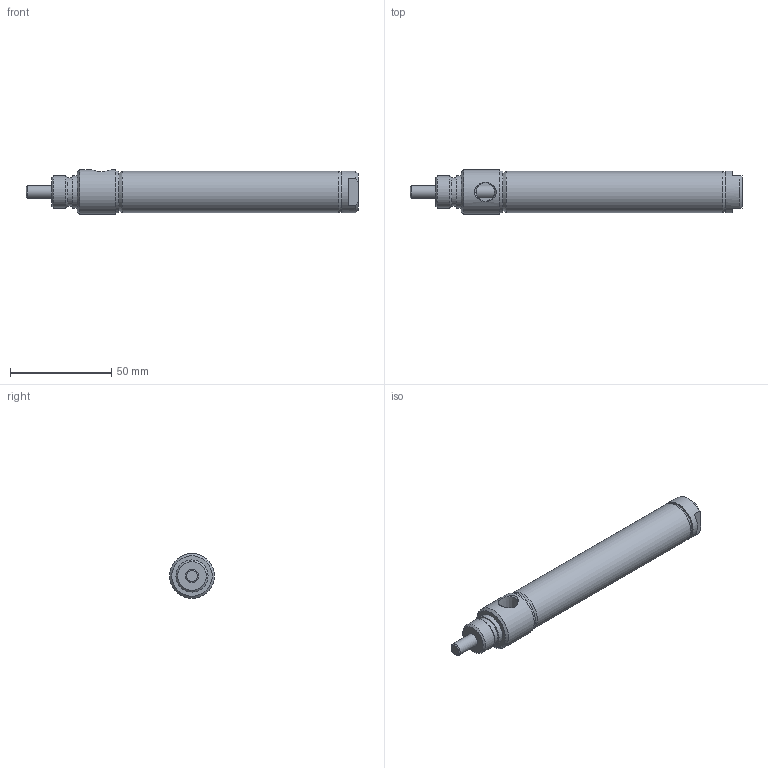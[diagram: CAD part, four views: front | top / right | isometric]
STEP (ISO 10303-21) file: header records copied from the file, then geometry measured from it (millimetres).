
FILE_DESCRIPTION( ( 'STEP AP214' ), '1' );
FILE_NAME( 'p:/temp/worker_416/temp/exporttempdir_2572_4_H4LTu/format_0/0750D01-03A.stp', '2020-05-07T14:27:35', ( 'License CC BY-ND 4.0' ), ( 'CADENAS' ), ' ', 'PARTsolutions', ' ' );
FILE_SCHEMA( ( 'AUTOMOTIVE_DESIGN { 1 0 10303 214 1 1 1 1 }' ) );
Length unit declared in the file: inch
Products named in the file (3): 0750D01-03A; _0750D01-03A-000b; _0750D01-03A-000r
Assembly tree (2 placements, depth 2):
  0750D01-03A
    _0750D01-03A-000b
    _0750D01-03A-000r
Bounding box: 164.31 x 22.23 x 22.23 mm (x, y, z)
Volume: 28553.8 mm3; surface area: 22912.4 mm2
Topology: 2 solids, 2 shells, 44 faces, 85 edges, 54 vertices
Faces by surface type: plane 19, cone 13, cylinder 12
Full cylindrical faces by diameter (mm): 6.35 x3, 14.196 x1, 15.85 x1, 15.875 x1, 19.05 x2, 20.472 x1, 20.65 x2, 22.225 x1
Entity records: 1546 total; most frequent: CARTESIAN_POINT 317, DIRECTION 186, ORIENTED_EDGE 122, AXIS2_PLACEMENT_3D 88, EDGE_LOOP 78, EDGE_CURVE 61, FACE_OUTER_BOUND 56, VERTEX_POINT 51
